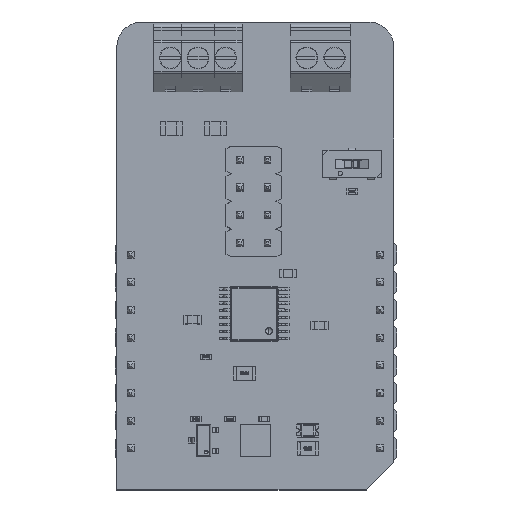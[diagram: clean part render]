
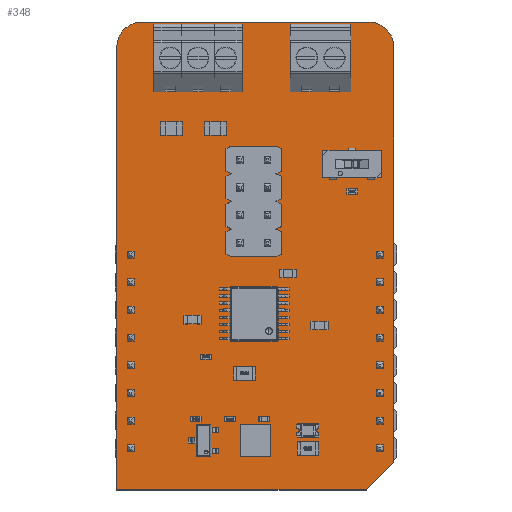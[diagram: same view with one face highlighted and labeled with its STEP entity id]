
A CAD part, top view. The second image highlights one B-rep face of the part: STEP entity #348.
In plain terms, the highlighted planar face has unit normal (0, 0, 1).
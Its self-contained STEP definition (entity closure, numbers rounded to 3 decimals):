
#119 = VERTEX_POINT('',#120);
#120 = CARTESIAN_POINT('',(-1.27,-3.81,0.));
#126 = EDGE_CURVE('',#119,#127,#129,.T.);
#127 = VERTEX_POINT('',#128);
#128 = CARTESIAN_POINT('',(-1.27,36.83,0.));
#129 = LINE('',#130,#131);
#130 = CARTESIAN_POINT('',(-1.27,-3.81,0.));
#131 = VECTOR('',#132,1.);
#132 = DIRECTION('',(0.,1.,0.));
#157 = EDGE_CURVE('',#127,#158,#160,.T.);
#158 = VERTEX_POINT('',#159);
#159 = CARTESIAN_POINT('',(1.016,39.116,0.));
#160 = CIRCLE('',#161,2.288);
#161 = AXIS2_PLACEMENT_3D('',#162,#163,#164);
#162 = CARTESIAN_POINT('',(1.018,36.828,0.));
#163 = DIRECTION('',(0.,0.,-1.));
#164 = DIRECTION('',(-1.,0.001,0.));
#190 = EDGE_CURVE('',#158,#191,#193,.T.);
#191 = VERTEX_POINT('',#192);
#192 = CARTESIAN_POINT('',(21.844,39.116,0.));
#193 = LINE('',#194,#195);
#194 = CARTESIAN_POINT('',(1.016,39.116,0.));
#195 = VECTOR('',#196,1.);
#196 = DIRECTION('',(1.,0.,0.));
#221 = EDGE_CURVE('',#191,#222,#224,.T.);
#222 = VERTEX_POINT('',#223);
#223 = CARTESIAN_POINT('',(24.13,36.83,0.));
#224 = CIRCLE('',#225,2.288);
#225 = AXIS2_PLACEMENT_3D('',#226,#227,#228);
#226 = CARTESIAN_POINT('',(21.842,36.828,0.));
#227 = DIRECTION('',(0.,0.,-1.));
#228 = DIRECTION('',(0.001,1.,0.));
#254 = EDGE_CURVE('',#222,#255,#257,.T.);
#255 = VERTEX_POINT('',#256);
#256 = CARTESIAN_POINT('',(24.13,-1.27,0.));
#257 = LINE('',#258,#259);
#258 = CARTESIAN_POINT('',(24.13,36.83,0.));
#259 = VECTOR('',#260,1.);
#260 = DIRECTION('',(0.,-1.,0.));
#285 = EDGE_CURVE('',#255,#286,#288,.T.);
#286 = VERTEX_POINT('',#287);
#287 = CARTESIAN_POINT('',(21.59,-3.81,0.));
#288 = LINE('',#289,#290);
#289 = CARTESIAN_POINT('',(24.13,-1.27,0.));
#290 = VECTOR('',#291,1.);
#291 = DIRECTION('',(-0.707,-0.707,0.));
#316 = EDGE_CURVE('',#286,#119,#317,.T.);
#317 = LINE('',#318,#319);
#318 = CARTESIAN_POINT('',(21.59,-3.81,0.));
#319 = VECTOR('',#320,1.);
#320 = DIRECTION('',(-1.,0.,0.));
#348 = ADVANCED_FACE('',(#349),#358,.T.);
#349 = FACE_BOUND('',#350,.F.);
#350 = EDGE_LOOP('',(#351,#352,#353,#354,#355,#356,#357));
#351 = ORIENTED_EDGE('',*,*,#126,.T.);
#352 = ORIENTED_EDGE('',*,*,#157,.T.);
#353 = ORIENTED_EDGE('',*,*,#190,.T.);
#354 = ORIENTED_EDGE('',*,*,#221,.T.);
#355 = ORIENTED_EDGE('',*,*,#254,.T.);
#356 = ORIENTED_EDGE('',*,*,#285,.T.);
#357 = ORIENTED_EDGE('',*,*,#316,.T.);
#358 = PLANE('',#359);
#359 = AXIS2_PLACEMENT_3D('',#360,#361,#362);
#360 = CARTESIAN_POINT('',(-1.27,-3.81,0.));
#361 = DIRECTION('',(0.,0.,1.));
#362 = DIRECTION('',(1.,0.,0.));
